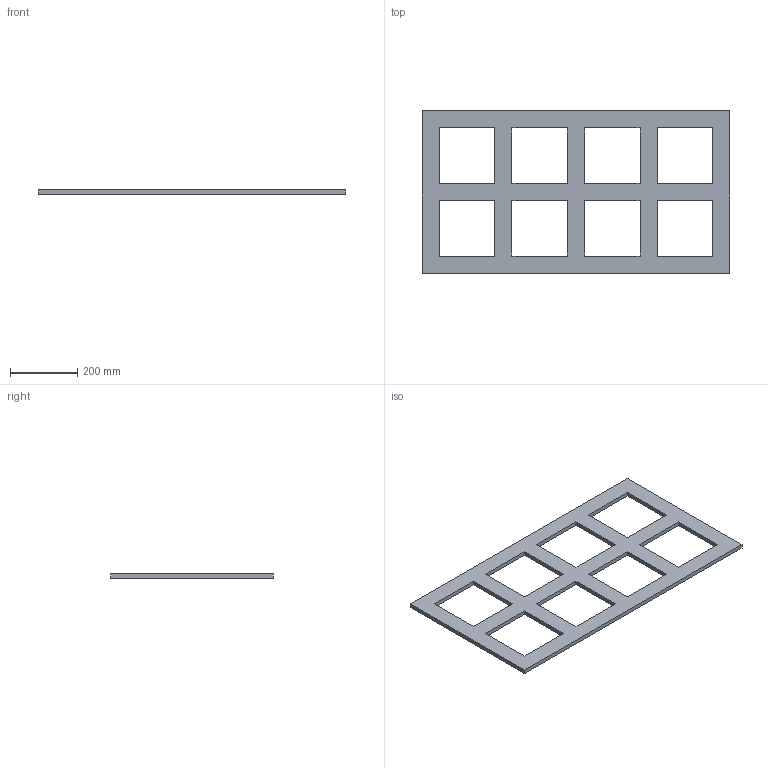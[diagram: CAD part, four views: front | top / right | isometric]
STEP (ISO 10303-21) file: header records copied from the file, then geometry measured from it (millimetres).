
FILE_DESCRIPTION (( 'STEP AP214' ), '1' );
FILE_NAME ('ChassisPart.STEP', '2026-02-08T18:09:43', ( '' ), ( '' ), 'SwSTEP 2.0', 'SolidWorks 2025', '' );
FILE_SCHEMA (( 'AUTOMOTIVE_DESIGN' ));
Length unit declared in the file: inch
Products named in the file (1): ChassisPart
Bounding box: 914.4 x 482.6 x 12.7 mm (x, y, z)
Volume: 2834962.1 mm3; surface area: 549031.2 mm2
Topology: 1 solids, 1 shells, 38 faces, 108 edges, 72 vertices
Faces by surface type: plane 38
Entity records: 1271 total; most frequent: CARTESIAN_POINT 219, ORIENTED_EDGE 216, DIRECTION 186, EDGE_CURVE 108, LINE 108, VECTOR 108, VERTEX_POINT 72, EDGE_LOOP 54
